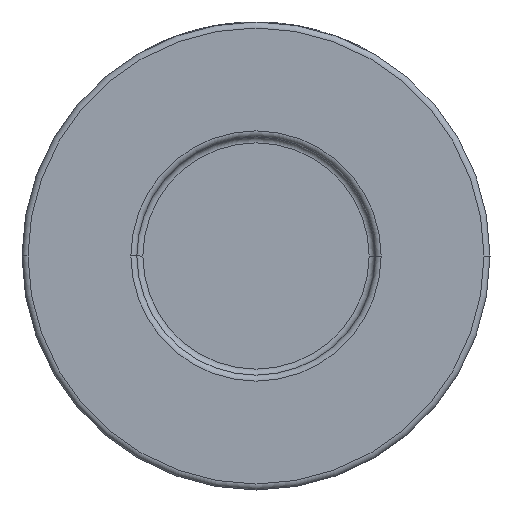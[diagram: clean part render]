
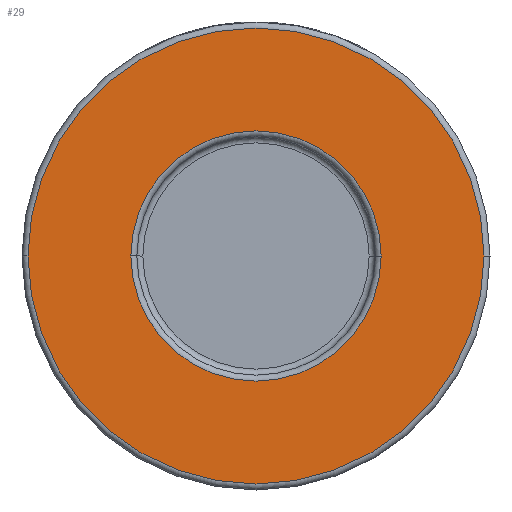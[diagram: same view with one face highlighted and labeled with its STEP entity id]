
A CAD part, front view. The second image highlights one B-rep face of the part: STEP entity #29.
In plain terms, the highlighted planar face has unit normal (0, -1, 0).
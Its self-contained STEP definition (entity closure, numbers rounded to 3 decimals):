
#20 = CIRCLE ( 'NONE', #245, 20.85 ) ;
#29 = ADVANCED_FACE ( 'NONE', ( #166, #1983 ), #2684, .T. ) ;
#43 = CIRCLE ( 'NONE', #643, 38. ) ;
#54 = CARTESIAN_POINT ( 'NONE',  ( 0., -29., 0. ) ) ;
#58 = DIRECTION ( 'NONE',  ( 0., 1., 0. ) ) ;
#103 = ORIENTED_EDGE ( 'NONE', *, *, #1111, .T. ) ;
#166 = FACE_BOUND ( 'NONE', #2249, .T. ) ;
#205 = DIRECTION ( 'NONE',  ( 1., 0., 0. ) ) ;
#245 = AXIS2_PLACEMENT_3D ( 'NONE', #831, #4436, #205 ) ;
#419 = AXIS2_PLACEMENT_3D ( 'NONE', #2310, #3411, #3744 ) ;
#451 = DIRECTION ( 'NONE',  ( 1., 0., 0. ) ) ;
#584 = VERTEX_POINT ( 'NONE', #1445 ) ;
#643 = AXIS2_PLACEMENT_3D ( 'NONE', #3014, #2314, #4079 ) ;
#831 = CARTESIAN_POINT ( 'NONE',  ( 0., -29., 0. ) ) ;
#1100 = VERTEX_POINT ( 'NONE', #1204 ) ;
#1111 = EDGE_CURVE ( 'NONE', #3498, #1100, #3828, .T. ) ;
#1130 = CIRCLE ( 'NONE', #4434, 38. ) ;
#1204 = CARTESIAN_POINT ( 'NONE',  ( -20.85, -29., 0. ) ) ;
#1445 = CARTESIAN_POINT ( 'NONE',  ( -38., -29., 0. ) ) ;
#1571 = EDGE_CURVE ( 'NONE', #1100, #3498, #20, .T. ) ;
#1983 = FACE_OUTER_BOUND ( 'NONE', #3475, .T. ) ;
#2154 = VERTEX_POINT ( 'NONE', #4340 ) ;
#2237 = ORIENTED_EDGE ( 'NONE', *, *, #3534, .T. ) ;
#2249 = EDGE_LOOP ( 'NONE', ( #103, #3091 ) ) ;
#2310 = CARTESIAN_POINT ( 'NONE',  ( 39., -29., 0. ) ) ;
#2314 = DIRECTION ( 'NONE',  ( 0., -1., 0. ) ) ;
#2568 = DIRECTION ( 'NONE',  ( 0., -1., 0. ) ) ;
#2594 = CARTESIAN_POINT ( 'NONE',  ( 0., -29., 0. ) ) ;
#2684 = PLANE ( 'NONE',  #419 ) ;
#2791 = ORIENTED_EDGE ( 'NONE', *, *, #3206, .T. ) ;
#3014 = CARTESIAN_POINT ( 'NONE',  ( 0., -29., 0. ) ) ;
#3091 = ORIENTED_EDGE ( 'NONE', *, *, #1571, .T. ) ;
#3206 = EDGE_CURVE ( 'NONE', #2154, #584, #43, .T. ) ;
#3312 = CARTESIAN_POINT ( 'NONE',  ( 20.85, -29., 0. ) ) ;
#3334 = DIRECTION ( 'NONE',  ( 1., 0., 0. ) ) ;
#3411 = DIRECTION ( 'NONE',  ( 0., -1., 0. ) ) ;
#3475 = EDGE_LOOP ( 'NONE', ( #2791, #2237 ) ) ;
#3498 = VERTEX_POINT ( 'NONE', #3312 ) ;
#3534 = EDGE_CURVE ( 'NONE', #584, #2154, #1130, .T. ) ;
#3744 = DIRECTION ( 'NONE',  ( 1., 0., 0. ) ) ;
#3828 = CIRCLE ( 'NONE', #4417, 20.85 ) ;
#4079 = DIRECTION ( 'NONE',  ( 1., 0., 0. ) ) ;
#4340 = CARTESIAN_POINT ( 'NONE',  ( 38., -29., 0. ) ) ;
#4417 = AXIS2_PLACEMENT_3D ( 'NONE', #2594, #58, #451 ) ;
#4434 = AXIS2_PLACEMENT_3D ( 'NONE', #54, #2568, #3334 ) ;
#4436 = DIRECTION ( 'NONE',  ( 0., 1., 0. ) ) ;
